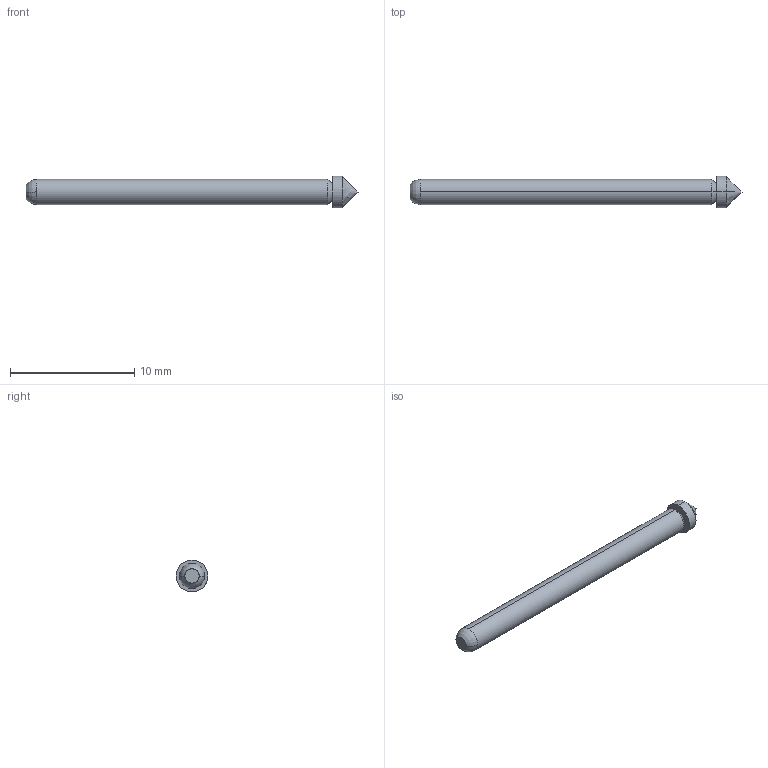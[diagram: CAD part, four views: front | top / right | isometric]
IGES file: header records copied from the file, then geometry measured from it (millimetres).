
Start section: SolidWorks IGES file using analytic representation for surfaces
Global section: file name: C:\Documents and Settings\mrumschlag\Desktop\changes\new\test\EPA-3E Full.IGS; native system: SolidWorks 2008; preprocessor: SolidWorks 2008; author: mrumschlag; date: 110414.162809; units: inch
Bounding box: 26.67 x 2.54 x 2.54 mm (x, y, z)
Surface area: 175.7 mm2 (no closed solid volume)
Topology: 0 solids, 0 shells, 12 faces, 108 edges, 106 vertices
Faces by surface type: revolution 10, bspline 2
